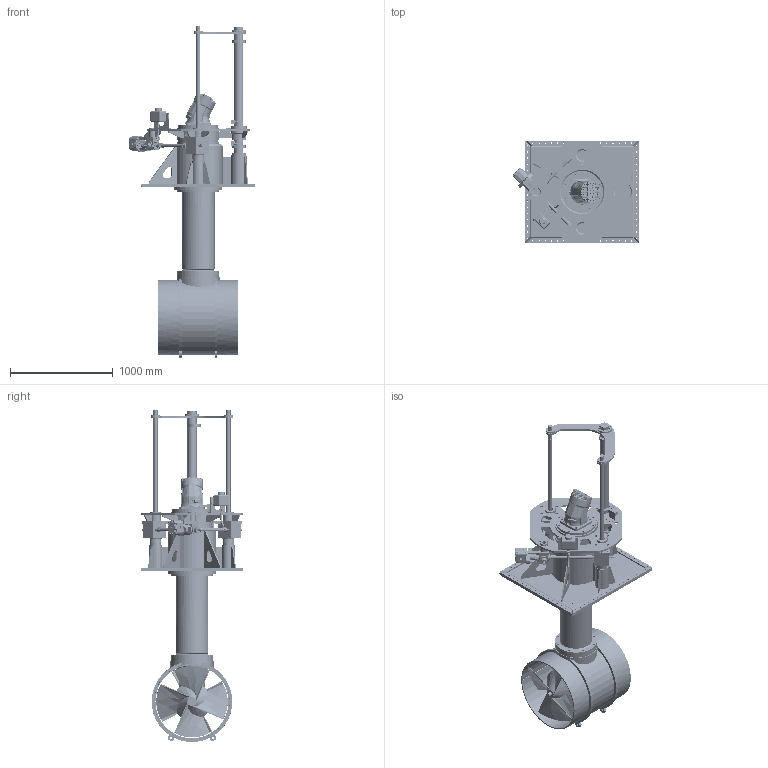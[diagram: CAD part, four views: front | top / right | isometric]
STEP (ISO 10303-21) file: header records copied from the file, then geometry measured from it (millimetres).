
FILE_DESCRIPTION(/* description */ (''),/* implementation_level */ '2;1');
FILE_NAME(/* name */ 'Q:\THRUSTERS\THRUSTER SALES & SUPPORT DOCS\THRUSTER Sales\H-V\H-0700-V\H-0700-DEPLOYED.stp',/* time_stamp */ '2020-03-17T17:03:33+00:00',/* author */ ('charlotte.richardson'),/* organization */ (''),/* preprocessor_version */ 'ST-DEVELOPER v17',/* originating_system */ 'Autodesk Inventor 2019',/* authorisation */ '');
FILE_SCHEMA (('AUTOMOTIVE_DESIGN { 1 0 10303 214 3 1 1 }'));
Length unit declared in the file: millimetre
Products named in the file (1): H-0700-V_Shrinkwrap_1
Bounding box: 1233.24 x 1001.98 x 3233.1 mm (x, y, z)
Volume: 216904280.3 mm3; surface area: 19354434.8 mm2
Topology: 9 solids, 9 shells, 5683 faces, 15032 edges, 9765 vertices
Faces by surface type: plane 2430, cylinder 1454, bspline 1219, cone 343, torus 204, sphere 33
Full cylindrical faces by diameter (mm): 3 x6, 4.2 x2, 5 x4, 7.2 x2, 8 x3, 9 x1, 9.525 x1, 10 x2, 10.25 x36, 10.3 x30, 10.5 x20, 11 x6, 12 x14, 12.4 x18, 12.5 x23, 13 x102, 13.84 x2, 14 x9, 14.32 x2, 14.662 x2, 15 x3, 15.25 x4, 15.8 x13, 16 x13, 16.662 x2, 17 x11, 17.5 x2, 18 x17, 18.25 x2, 18.376 x2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
Entity records: 281363 total; most frequent: CARTESIAN_POINT 140009, ORIENTED_EDGE 29870, DIRECTION 25719, EDGE_CURVE 14935, VERTEX_POINT 9764, AXIS2_PLACEMENT_3D 9505, LINE 6709, VECTOR 6709
